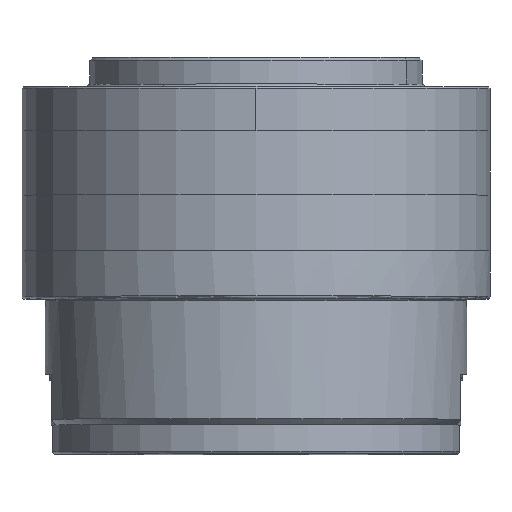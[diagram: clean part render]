
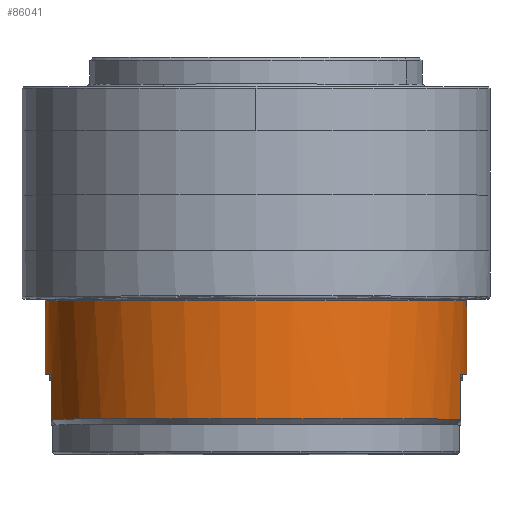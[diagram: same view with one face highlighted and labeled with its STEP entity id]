
A CAD part, top view. The second image highlights one B-rep face of the part: STEP entity #86041.
In plain terms, the highlighted cylindrical face has radius 36 mm (diameter 72 mm), a partial arc.
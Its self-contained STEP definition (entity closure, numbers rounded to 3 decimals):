
#142 = CARTESIAN_POINT ( 'NONE',  ( -38.686, -7.1, 0. ) ) ;
#2790 = EDGE_CURVE ( 'NONE', #58488, #82522, #75910, .T. ) ;
#3069 = CARTESIAN_POINT ( 'NONE',  ( -2.686, -92.269, 0. ) ) ;
#4001 = AXIS2_PLACEMENT_3D ( 'NONE', #52635, #12183, #54434 ) ;
#12183 = DIRECTION ( 'NONE',  ( 0., 1., 0. ) ) ;
#13635 = CIRCLE ( 'NONE', #4001, 36. ) ;
#14370 = ORIENTED_EDGE ( 'NONE', *, *, #2790, .T. ) ;
#14902 = DIRECTION ( 'NONE',  ( 0., -1., 0. ) ) ;
#15851 = LINE ( 'NONE', #22379, #38023 ) ;
#16213 = EDGE_CURVE ( 'NONE', #25524, #43193, #36694, .T. ) ;
#16315 = CARTESIAN_POINT ( 'NONE',  ( -2.686, -7.1, 0. ) ) ;
#16569 = DIRECTION ( 'NONE',  ( 1., 0., 0. ) ) ;
#18173 = VERTEX_POINT ( 'NONE', #59676 ) ;
#19843 = CIRCLE ( 'NONE', #45454, 36. ) ;
#20668 = LINE ( 'NONE', #73950, #39626 ) ;
#22002 = DIRECTION ( 'NONE',  ( 0., 0., -1. ) ) ;
#22379 = CARTESIAN_POINT ( 'NONE',  ( -37.608, -92.269, 8.743 ) ) ;
#23066 = DIRECTION ( 'NONE',  ( 0., 1., 0. ) ) ;
#23500 = EDGE_LOOP ( 'NONE', ( #29978, #68729, #39086, #58662, #14370, #42618, #30437, #74437 ) ) ;
#25524 = VERTEX_POINT ( 'NONE', #72919 ) ;
#26343 = DIRECTION ( 'NONE',  ( 0., 1., 0. ) ) ;
#27473 = CARTESIAN_POINT ( 'NONE',  ( -38.595, -7.1, 2.94 ) ) ;
#28939 = CARTESIAN_POINT ( 'NONE',  ( 32.237, -92.269, 8.743 ) ) ;
#29486 = CARTESIAN_POINT ( 'NONE',  ( 32.237, -7.1, 8.743 ) ) ;
#29920 = LINE ( 'NONE', #68166, #53193 ) ;
#29978 = ORIENTED_EDGE ( 'NONE', *, *, #52050, .F. ) ;
#30437 = ORIENTED_EDGE ( 'NONE', *, *, #59403, .T. ) ;
#31758 = EDGE_CURVE ( 'NONE', #45059, #55209, #19843, .T. ) ;
#31850 = VERTEX_POINT ( 'NONE', #71002 ) ;
#35696 = VECTOR ( 'NONE', #48185, 1000. ) ;
#36694 = B_SPLINE_CURVE_WITH_KNOTS ( 'NONE', 3,
 ( #61793, #67979, #48168, #27473, #74782, #142 ),
 .UNSPECIFIED., .F., .F.,
 ( 4, 2, 4 ),
 ( 0., 0.5, 1. ),
 .UNSPECIFIED. ) ;
#38023 = VECTOR ( 'NONE', #42160, 1000. ) ;
#39086 = ORIENTED_EDGE ( 'NONE', *, *, #63956, .T. ) ;
#39626 = VECTOR ( 'NONE', #26343, 1000. ) ;
#40357 = EDGE_CURVE ( 'NONE', #31850, #58488, #13635, .T. ) ;
#42160 = DIRECTION ( 'NONE',  ( 0., -1., 0. ) ) ;
#42618 = ORIENTED_EDGE ( 'NONE', *, *, #68963, .F. ) ;
#43193 = VERTEX_POINT ( 'NONE', #67840 ) ;
#44383 = CARTESIAN_POINT ( 'NONE',  ( 32.237, -14.8, 8.743 ) ) ;
#44541 = AXIS2_PLACEMENT_3D ( 'NONE', #3069, #23066, #16569 ) ;
#45059 = VERTEX_POINT ( 'NONE', #54585 ) ;
#45168 = CYLINDRICAL_SURFACE ( 'NONE', #44541, 36. ) ;
#45454 = AXIS2_PLACEMENT_3D ( 'NONE', #49121, #14902, #22002 ) ;
#48168 = CARTESIAN_POINT ( 'NONE',  ( -38.234, -7.1, 5.869 ) ) ;
#48185 = DIRECTION ( 'NONE',  ( 0., 1., 0. ) ) ;
#49121 = CARTESIAN_POINT ( 'NONE',  ( -2.686, 5.4, 0. ) ) ;
#49687 = DIRECTION ( 'NONE',  ( 0., -1., 0. ) ) ;
#52050 = EDGE_CURVE ( 'NONE', #43193, #55209, #20668, .T. ) ;
#52635 = CARTESIAN_POINT ( 'NONE',  ( -2.686, -14.8, 0. ) ) ;
#53193 = VECTOR ( 'NONE', #63109, 1000. ) ;
#54434 = DIRECTION ( 'NONE',  ( 0., 0., -1. ) ) ;
#54585 = CARTESIAN_POINT ( 'NONE',  ( 33.314, 5.4, 0. ) ) ;
#55209 = VERTEX_POINT ( 'NONE', #64469 ) ;
#58488 = VERTEX_POINT ( 'NONE', #44383 ) ;
#58662 = ORIENTED_EDGE ( 'NONE', *, *, #40357, .T. ) ;
#59403 = EDGE_CURVE ( 'NONE', #18173, #45059, #29920, .T. ) ;
#59676 = CARTESIAN_POINT ( 'NONE',  ( 33.314, -7.1, 0. ) ) ;
#61793 = CARTESIAN_POINT ( 'NONE',  ( -37.608, -7.1, 8.743 ) ) ;
#63109 = DIRECTION ( 'NONE',  ( 0., 1., 0. ) ) ;
#63956 = EDGE_CURVE ( 'NONE', #25524, #31850, #15851, .T. ) ;
#64469 = CARTESIAN_POINT ( 'NONE',  ( -38.686, 5.4, 0. ) ) ;
#67395 = FACE_OUTER_BOUND ( 'NONE', #23500, .T. ) ;
#67840 = CARTESIAN_POINT ( 'NONE',  ( -38.686, -7.1, 0. ) ) ;
#67979 = CARTESIAN_POINT ( 'NONE',  ( -37.965, -7.1, 7.315 ) ) ;
#68166 = CARTESIAN_POINT ( 'NONE',  ( 33.314, -92.269, 0. ) ) ;
#68729 = ORIENTED_EDGE ( 'NONE', *, *, #16213, .F. ) ;
#68963 = EDGE_CURVE ( 'NONE', #18173, #82522, #74721, .T. ) ;
#71002 = CARTESIAN_POINT ( 'NONE',  ( -37.608, -14.8, 8.743 ) ) ;
#71013 = AXIS2_PLACEMENT_3D ( 'NONE', #16315, #49687, #82684 ) ;
#72919 = CARTESIAN_POINT ( 'NONE',  ( -37.608, -7.1, 8.743 ) ) ;
#73950 = CARTESIAN_POINT ( 'NONE',  ( -38.686, -92.269, 0. ) ) ;
#74437 = ORIENTED_EDGE ( 'NONE', *, *, #31758, .T. ) ;
#74721 = CIRCLE ( 'NONE', #71013, 36. ) ;
#74782 = CARTESIAN_POINT ( 'NONE',  ( -38.686, -7.1, 1.472 ) ) ;
#75910 = LINE ( 'NONE', #28939, #35696 ) ;
#82522 = VERTEX_POINT ( 'NONE', #29486 ) ;
#82684 = DIRECTION ( 'NONE',  ( 0., 0., -1. ) ) ;
#86041 = ADVANCED_FACE ( 'NONE', ( #67395 ), #45168, .T. ) ;
